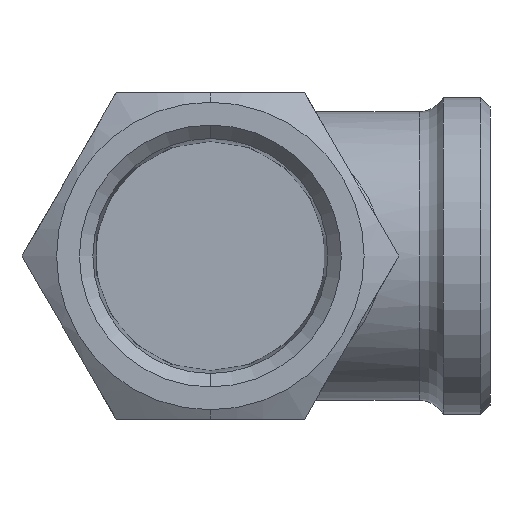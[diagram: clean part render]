
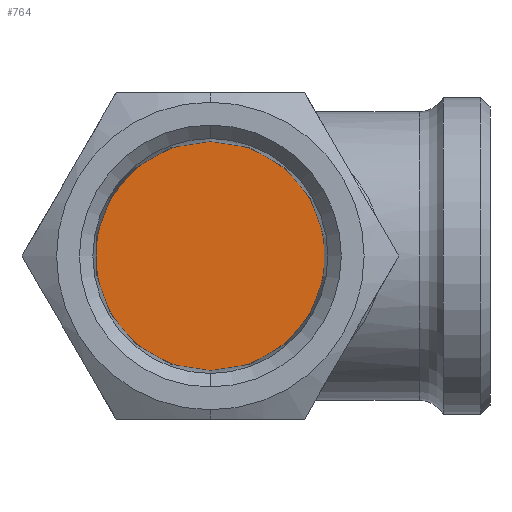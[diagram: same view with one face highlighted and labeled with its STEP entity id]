
A CAD part, left-side view. The second image highlights one B-rep face of the part: STEP entity #764.
In plain terms, the highlighted planar face has unit normal (-1, 0, 0).
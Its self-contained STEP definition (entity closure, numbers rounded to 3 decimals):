
#100 = DIRECTION ( 'NONE',  ( 0., 0., 1. ) ) ;
#140 = DIRECTION ( 'NONE',  ( -1., 0., 0. ) ) ;
#178 = ORIENTED_EDGE ( 'NONE', *, *, #812, .T. ) ;
#185 = AXIS2_PLACEMENT_3D ( 'NONE', #1554, #595, #100 ) ;
#324 = CIRCLE ( 'NONE', #1584, 12.3 ) ;
#449 = VERTEX_POINT ( 'NONE', #896 ) ;
#595 = DIRECTION ( 'NONE',  ( -1., 0., 0. ) ) ;
#764 = ADVANCED_FACE ( 'NONE', ( #1978 ), #1818, .T. ) ;
#812 = EDGE_CURVE ( 'NONE', #449, #1058, #324, .T. ) ;
#896 = CARTESIAN_POINT ( 'NONE',  ( -42., 0., 12.3 ) ) ;
#923 = DIRECTION ( 'NONE',  ( 0., 0., 1. ) ) ;
#952 = AXIS2_PLACEMENT_3D ( 'NONE', #1385, #140, #923 ) ;
#1043 = CIRCLE ( 'NONE', #185, 12.3 ) ;
#1058 = VERTEX_POINT ( 'NONE', #2060 ) ;
#1093 = DIRECTION ( 'NONE',  ( -1., 0., 0. ) ) ;
#1379 = DIRECTION ( 'NONE',  ( 0., 0., 1. ) ) ;
#1385 = CARTESIAN_POINT ( 'NONE',  ( -42., 12.3, 0. ) ) ;
#1437 = EDGE_CURVE ( 'NONE', #1058, #449, #1043, .T. ) ;
#1554 = CARTESIAN_POINT ( 'NONE',  ( -42., 0., 0. ) ) ;
#1584 = AXIS2_PLACEMENT_3D ( 'NONE', #1684, #1093, #1379 ) ;
#1669 = EDGE_LOOP ( 'NONE', ( #178, #1881 ) ) ;
#1684 = CARTESIAN_POINT ( 'NONE',  ( -42., 0., 0. ) ) ;
#1818 = PLANE ( 'NONE',  #952 ) ;
#1881 = ORIENTED_EDGE ( 'NONE', *, *, #1437, .T. ) ;
#1978 = FACE_OUTER_BOUND ( 'NONE', #1669, .T. ) ;
#2060 = CARTESIAN_POINT ( 'NONE',  ( -42., 0., -12.3 ) ) ;
